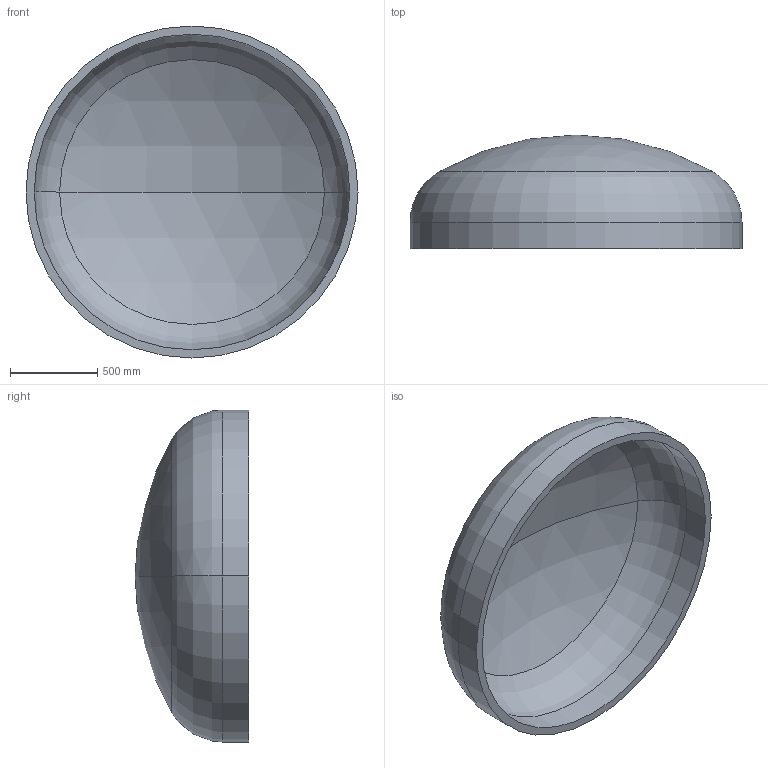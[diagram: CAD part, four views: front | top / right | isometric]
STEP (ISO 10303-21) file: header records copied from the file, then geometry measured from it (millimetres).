
FILE_DESCRIPTION (( 'STEP AP203' ), '1' );
FILE_NAME ('DIN 28013 Korbbogenform_-_Boden DIN 28013 - 1900 x 150 - I - s=47.step', '2016-07-01T13:11:39', ( '' ), ( '' ), 'SwSTEP 2.0', 'SolidWorks 2013', '' );
FILE_SCHEMA (( 'CONFIG_CONTROL_DESIGN' ));
Length unit declared in the file: millimetre
Products named in the file (1): DIN 28013 Korbbogenform_-_Boden DIN 28013 - 1900 x 150 - I - s=47
Bounding box: 1900 x 650.64 x 1900 mm (x, y, z)
Volume: 219391627.1 mm3; surface area: 9614042.1 mm2
Topology: 1 solids, 1 shells, 13 faces, 24 edges, 14 vertices
Faces by surface type: torus 4, cylinder 4, sphere 4, plane 1
Entity records: 407 total; most frequent: DIRECTION 72, CARTESIAN_POINT 52, ORIENTED_EDGE 48, AXIS2_PLACEMENT_3D 34, EDGE_CURVE 24, CIRCLE 20, EDGE_LOOP 14, VERTEX_POINT 14
